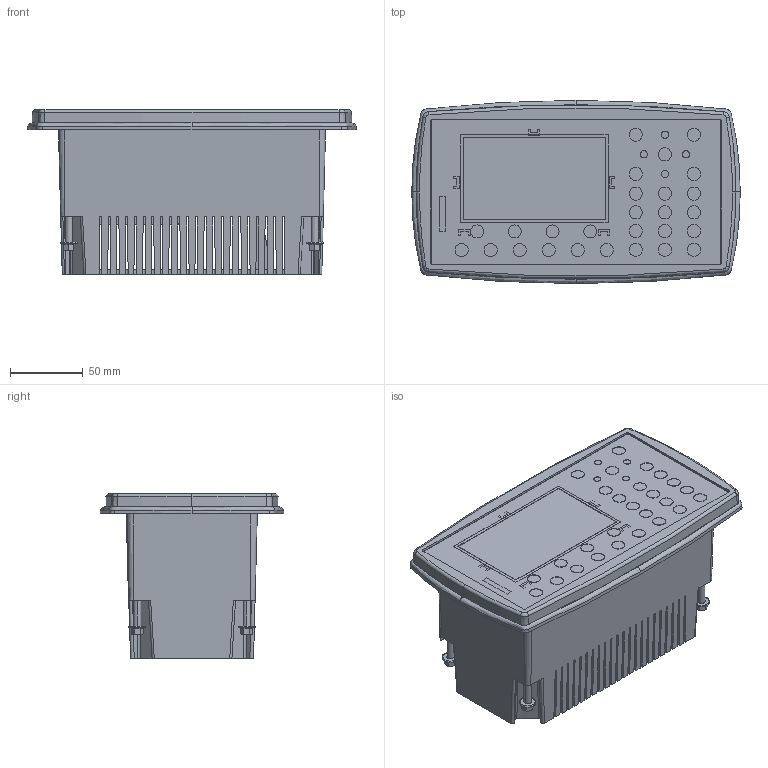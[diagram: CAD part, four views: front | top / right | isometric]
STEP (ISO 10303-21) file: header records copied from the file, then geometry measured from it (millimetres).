
FILE_DESCRIPTION (( 'STEP AP214' ), '1' );
FILE_NAME ('503260r0.STEP', '2021-03-23T07:52:02', ( '' ), ( '' ), 'SwSTEP 2.0', 'SolidWorks 2021', '' );
FILE_SCHEMA (( 'AUTOMOTIVE_DESIGN' ));
Length unit declared in the file: millimetre
Products named in the file (16): 401790r0; 300614r0; PartNuber X; 601322r1; 503260r0; PartNuber X New; 300611r0; countersunk flat head cross recess screw_iso_ISO 7046-1 - M3 x 8 - Z --- 8N; Ny_M5 Press in Insert ; Ny_VSN-G5-I-1200; 300612r0; 601383r1; hex flange bolt small_iso_ISO 4162 - M5 x 30 x 16-N; Ny_Indicator LCD; flat head screw_am_B18.6.7M - M3 x 0.5 x 10 Type I Cross Recessed FHMS --10N; 503233r0
Assembly tree (27 placements, depth 2):
  503260r0
    300611r0
    Ny_Indicator LCD
    300614r0
    Ny_VSN-G5-I-1200
    300612r0
    hex flange bolt small_iso_ISO 4162 - M5 x 30 x 16-N  x4
    Ny_M5 Press in Insert   x4
    countersunk flat head cross recess screw_iso_ISO 7046-1 - M3 x 8 - Z --- 8N  x2
    503233r0
    601322r1
    flat head screw_am_B18.6.7M - M3 x 0.5 x 10 Type I Cross Recessed FHMS --10N  x6
    601383r1
    PartNuber X
    401790r0
    PartNuber X New
Bounding box: 226.2 x 126.2 x 113.2 mm (x, y, z)
Volume: 418321.8 mm3; surface area: 398492.6 mm2
Topology: 27 solids, 27 shells, 2123 faces, 5958 edges, 3880 vertices
Faces by surface type: plane 1267, cone 432, cylinder 350, bspline 40, torus 34
Entity records: 62642 total; most frequent: CARTESIAN_POINT 13857, ORIENTED_EDGE 10608, DIRECTION 9470, EDGE_CURVE 5304, LINE 3536, VECTOR 3536, VERTEX_POINT 3490, AXIS2_PLACEMENT_3D 2967
